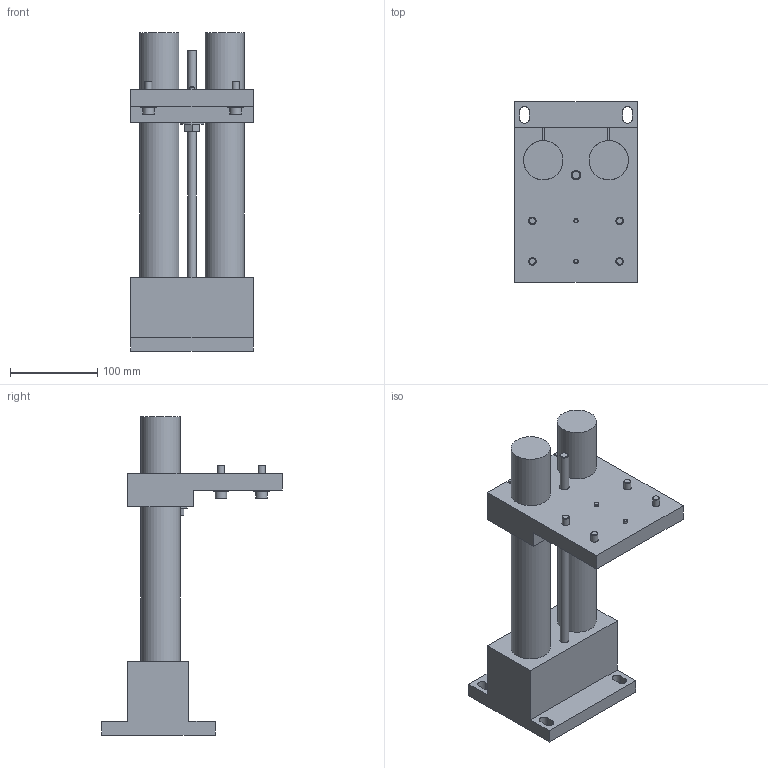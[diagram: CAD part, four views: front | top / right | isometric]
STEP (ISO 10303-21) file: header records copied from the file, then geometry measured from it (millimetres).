
FILE_DESCRIPTION( ( 'STEP AP214' ), '1' );
FILE_NAME( 'U:/Etudes/Top Solid/BIBLIO 3D AVM/STEP/N_ELECTRIQUE/Linéaires/Accessoires/8319100_0.step', '2006-06-29T13:17:11', ( ' ' ), ( ' ' ), 'XStep 1.0', ' ', ' ' );
FILE_SCHEMA( ( 'automotive_design' ) );
Length unit declared in the file: metre
Products named in the file (2): 1; 2
Bounding box: 140 x 207 x 365 mm (x, y, z)
Volume: 2419010.3 mm3; surface area: 248393.6 mm2
Topology: 2 solids, 2 shells, 157 faces, 352 edges, 232 vertices
Faces by surface type: plane 95, cylinder 43, cone 19
Full cylindrical faces by diameter (mm): 5 x2, 8 x8, 8.25 x4, 8.5 x5, 10 x1, 10.25 x1, 11 x1, 13 x4, 18 x4, 27 x1, 45 x2
Entity records: 5543 total; most frequent: CARTESIAN_POINT 941, DIRECTION 684, ORIENTED_EDGE 594, EDGE_CURVE 297, AXIS2_PLACEMENT_3D 256, EDGE_LOOP 240, VERTEX_POINT 217, FACE_OUTER_BOUND 190
